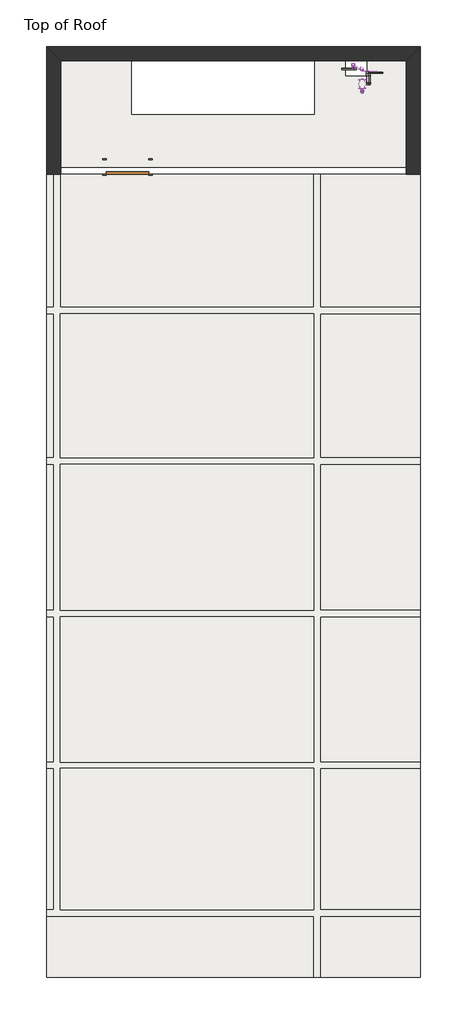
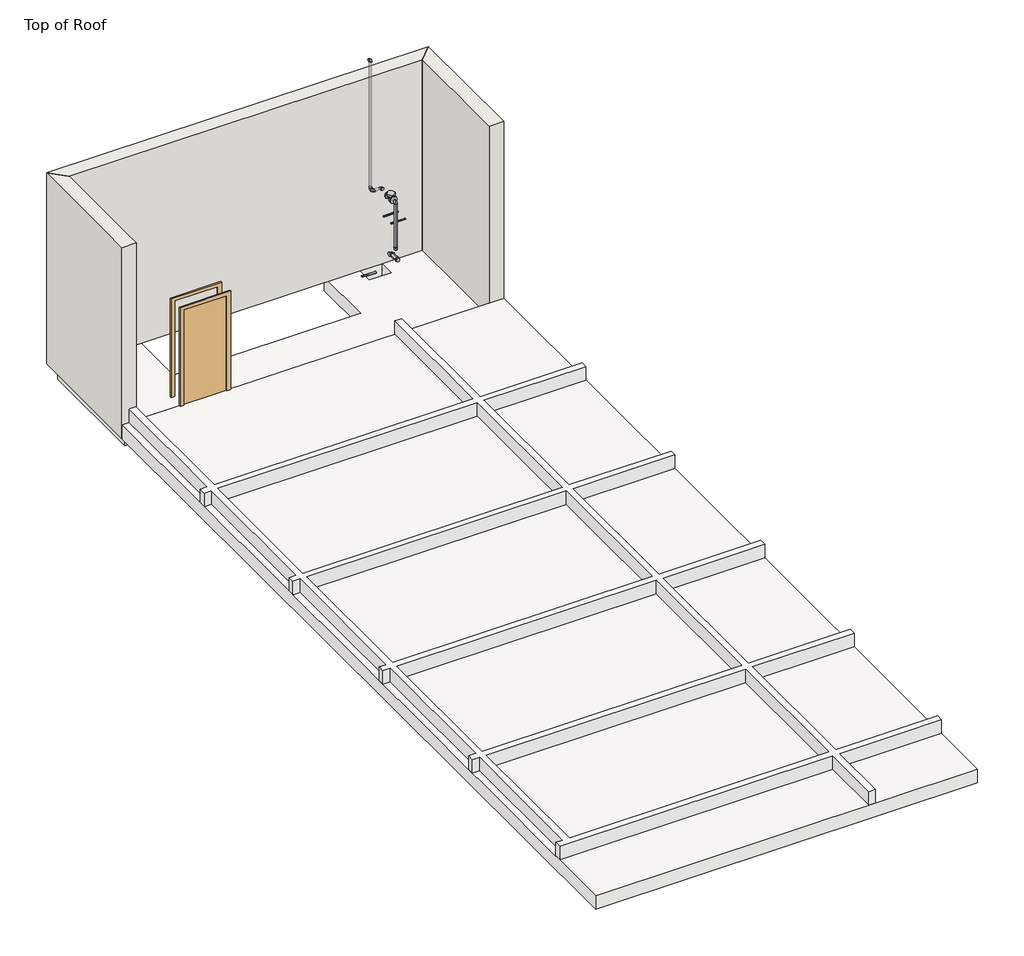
# One storey, incomplete: 10 pipe segments, 8 pipe fittings, 3 duct segments, 3 walls, 2 roofs, 1 door, 1 slab, 1 valve.
"""IFC4 building model written with IfcOpenShell, lengths in millimetres."""

from ifc_helpers import new_model, si_unit, point, frame, frame_2d, origin, place, context, project, spatial, polyline, circle_curve, trimmed, segment, composite_curve, outline, extrude, faceted_brep, transform, mapped, element, save
from components import door_03272193, pipe_elbow1_standard_2_37b9a8da, pipe_elbow_standard_764eecca, pipe_straight_coupling_standard_b5fcd073, pipe_straight_coupling_standard_a036b704, valve_ac2393f4

model = new_model("IFC4")

# Units and contexts
model_context = context("Model", 3, world=origin())
ifc_project = project(units=[si_unit("LENGTHUNIT", "METRE", prefix="MILLI")], contexts=[model_context])

# Site, building, storey
site = spatial("IfcSite", under=ifc_project)
building = spatial("IfcBuilding", under=site)
storey = spatial("IfcBuildingStorey", under=building, Name="Top of Roof", Elevation=11582.4)

# Door
placement = place(None, origin())
door_shape = door_03272193(model_context)
element("IfcDoor", 1, ObjectType="Single-Flush : 36\" x 84\"", at=placement, inside=storey, context=model_context, shape_type="MappedRepresentation", body=[
    mapped(door_shape, transform((-3019.2439612, 9304.759643, 11887.2), x_axis=(-1.0, 0.0, 0.0), y_axis=(0.0, -1.0, 0.0), z_axis=(0.0, 0.0, 1.0))),
])

# Duct segments
element("IfcDuctSegment", 2, ObjectType="Standard", at=placement, inside=storey, context=model_context, shape_type="SweptSolid", body=[
    extrude(outline(composite_curve([segment(trimmed(circle_curve(frame_2d((11425.659643, 11582.4)), 19.05), [point((11444.709643, 11582.4))], [point((11425.659643, 11563.35))], False, "CARTESIAN"), True, "CONTINUOUS"), segment(trimmed(circle_curve(frame_2d((11425.659643, 11582.4)), 19.05), [point((11425.659643, 11563.35))], [point((11406.609643, 11582.4))], False, "CARTESIAN"), True, "CONTINUOUS"), segment(trimmed(circle_curve(frame_2d((11425.659643, 11582.4)), 19.05), [point((11406.609643, 11582.4))], [point((11425.659643, 11601.45))], False, "CARTESIAN"), True, "CONTINUOUS"), segment(trimmed(circle_curve(frame_2d((11425.659643, 11582.4)), 19.05), [point((11425.659643, 11601.45))], [point((11444.709643, 11582.4))], False, "CARTESIAN"), True, "CONTINUOUS")], self_intersect=False)), frame((1611.6863305, 0.0, 0.0), z_axis=(1.0, 0.0, 0.0), x_axis=(0.0, 1.0, 0.0)), (0.0, 0.0, 1.0), 304.8),
])
element("IfcDuctSegment", 3, ObjectType="Standard", at=placement, inside=storey, context=model_context, shape_type="SweptSolid", body=[
    extrude(outline(composite_curve([segment(trimmed(circle_curve(frame_2d((11372.829964, 12815.3598542)), 12.7), [point((11360.129964, 12815.3598542))], [point((11372.829964, 12828.0598542))], False, "CARTESIAN"), True, "CONTINUOUS"), segment(trimmed(circle_curve(frame_2d((11372.829964, 12815.3598542)), 12.7), [point((11372.829964, 12828.0598542))], [point((11385.529964, 12815.3598542))], False, "CARTESIAN"), True, "CONTINUOUS"), segment(trimmed(circle_curve(frame_2d((11372.829964, 12815.3598542)), 12.7), [point((11385.529964, 12815.3598542))], [point((11372.829964, 12802.6598542))], False, "CARTESIAN"), True, "CONTINUOUS"), segment(trimmed(circle_curve(frame_2d((11372.829964, 12815.3598542)), 12.7), [point((11372.829964, 12802.6598542))], [point((11360.129964, 12815.3598542))], False, "CARTESIAN"), True, "CONTINUOUS")], self_intersect=False)), frame((2048.0560388, 0.0, 0.0), z_axis=(1.0, 0.0, 0.0), x_axis=(0.0, 1.0, 0.0)), (0.0, 0.0, 1.0), 304.8),
])
element("IfcDuctSegment", 4, ObjectType="Standard", at=placement, inside=storey, context=model_context, shape_type="SweptSolid", body=[
    extrude(outline(composite_curve([segment(trimmed(circle_curve(frame_2d((11339.4791702, 12629.0737176)), 12.7), [point((11352.1791702, 12629.0737176))], [point((11339.4791702, 12616.3737176))], False, "CARTESIAN"), True, "CONTINUOUS"), segment(trimmed(circle_curve(frame_2d((11339.4791702, 12629.0737176)), 12.7), [point((11339.4791702, 12616.3737176))], [point((11326.7791702, 12629.0737176))], False, "CARTESIAN"), True, "CONTINUOUS"), segment(trimmed(circle_curve(frame_2d((11339.4791702, 12629.0737176)), 12.7), [point((11326.7791702, 12629.0737176))], [point((11339.4791702, 12641.7737176))], False, "CARTESIAN"), True, "CONTINUOUS"), segment(trimmed(circle_curve(frame_2d((11339.4791702, 12629.0737176)), 12.7), [point((11339.4791702, 12641.7737176))], [point((11352.1791702, 12629.0737176))], False, "CARTESIAN"), True, "CONTINUOUS")], self_intersect=False)), frame((2187.7560388, 0.0, 0.0), z_axis=(1.0, 0.0, 0.0), x_axis=(0.0, 1.0, 0.0)), (0.0, 0.0, 1.0), 304.8),
])

# Pipe fittings
pipe_elbow1_standard_2_shape = pipe_elbow1_standard_2_37b9a8da(model_context)
element("IfcPipeFitting", 5, ObjectType="Pipe Elbow1 : Standard 2", at=placement, inside=storey, context=model_context, shape_type="MappedRepresentation", body=[
    mapped(pipe_elbow1_standard_2_shape, transform((2187.7560388, 11330.409643, 11963.4), x_axis=(0.0, 1.0, 0.0), y_axis=(-1.0, 0.0, 0.0), z_axis=(0.0, 0.0, 1.0))),
])
pipe_elbow_standard_shape = pipe_elbow_standard_764eecca(model_context)
element("IfcPipeFitting", 6, ObjectType="Pipe Elbow1 : Standard 2", at=placement, inside=storey, context=model_context, shape_type="MappedRepresentation", body=[
    mapped(pipe_elbow_standard_shape, transform((1858.0140973, 11439.1535444, 13411.2), x_axis=(-1.0, 0.0, 0.0), y_axis=(0.0, 1.0, 0.0), z_axis=(0.0, 0.0, -1.0))),
])
element("IfcPipeFitting", 7, ObjectType="Pipe Elbow1 : Standard 2", at=placement, inside=storey, context=model_context, shape_type="MappedRepresentation", body=[
    mapped(pipe_elbow_standard_shape, transform((1858.0140973, 11521.5729631, 13411.2), x_axis=(0.0, 1.0, 0.0), y_axis=(0.0, 0.0, 1.0), z_axis=(1.0, 0.0, 0.0))),
])
element("IfcPipeFitting", 8, ObjectType="Pipe Elbow1 : Standard 2", at=placement, inside=storey, context=model_context, shape_type="MappedRepresentation", body=[
    mapped(pipe_elbow_standard_shape, transform((2048.0560388, 11439.1535444, 13411.2), x_axis=(1.0, 0.0, 0.0), y_axis=(0.0, -1.0, 0.0), z_axis=(0.0, 0.0, -1.0))),
])
element("IfcPipeFitting", 9, ObjectType="Pipe Elbow1 : Standard 2", at=placement, inside=storey, context=model_context, shape_type="MappedRepresentation", body=[
    mapped(pipe_elbow_standard_shape, transform((2048.0560388, 10930.359643, 13411.2), x_axis=(0.0, 0.0, 1.0), y_axis=(0.0, 1.0, 0.0), z_axis=(-1.0, 0.0, 0.0))),
])
element("IfcPipeFitting", 10, ObjectType="Pipe Elbow1 : Standard 2", at=placement, inside=storey, context=model_context, shape_type="MappedRepresentation", body=[
    mapped(pipe_elbow_standard_shape, transform((1858.0140973, 11521.5729631, 16297.275), x_axis=(0.0, 0.0, 1.0), y_axis=(-1.0, 0.0, 0.0), z_axis=(0.0, -1.0, 0.0))),
])
pipe_straight_coupling_standard_shape = pipe_straight_coupling_standard_b5fcd073(model_context)
element("IfcPipeFitting", 11, ObjectType="Pipe Straight Coupling : Standard", at=placement, inside=storey, context=model_context, shape_type="MappedRepresentation", body=[
    mapped(pipe_straight_coupling_standard_shape, transform((2187.7560388, 11122.2413836, 11963.4), x_axis=(0.0, -1.0, 0.0), y_axis=(1.0, 0.0, 0.0), z_axis=(0.0, 0.0, 1.0))),
])
pipe_straight_coupling_standard_2_shape = pipe_straight_coupling_standard_a036b704(model_context)
element("IfcPipeFitting", 12, ObjectType="Pipe Straight Coupling : Standard", at=placement, inside=storey, context=model_context, shape_type="MappedRepresentation", body=[
    mapped(pipe_straight_coupling_standard_2_shape, transform((2048.0560388, 10930.359643, 12398.3856276), x_axis=(0.0, 0.0, -1.0), y_axis=(-1.0, 0.0, 0.0), z_axis=(0.0, 1.0, 0.0))),
])

# Pipe segments
element("IfcPipeSegment", 13, ObjectType="Standard", at=placement, inside=storey, context=model_context, shape_type="SweptSolid", body=[
    extrude(outline(composite_curve([segment(trimmed(circle_curve(frame_2d((0.0, 39.6875)), 39.6875), [point((0.0, 79.375))], [point((39.6875, 39.6875))], False, "CARTESIAN"), True, "CONTINUOUS"), segment(trimmed(circle_curve(frame_2d((0.0, 39.6875)), 39.6875), [point((39.6875, 39.6875))], [point((0.0, 0.0))], False, "CARTESIAN"), True, "CONTINUOUS"), segment(trimmed(circle_curve(frame_2d((0.0, 39.6875)), 39.6875), [point((0.0, 0.0))], [point((-39.6875, 39.6875))], False, "CARTESIAN"), True, "CONTINUOUS"), segment(trimmed(circle_curve(frame_2d((0.0, 39.6875)), 39.6875), [point((-39.6875, 39.6875))], [point((0.0, 79.375))], False, "CARTESIAN"), True, "CONTINUOUS")], self_intersect=False)), frame((2148.0685388, 11124.6543836, 11963.4), z_axis=(2.9194779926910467e-12, 1.0, 0.0), x_axis=(0.0, 0.0, 1.0)), (0.0, 0.0, 1.0), 156.5427594),
])
element("IfcPipeSegment", 14, ObjectType="Standard", at=placement, inside=storey, context=model_context, shape_type="SweptSolid", body=[
    extrude(outline(composite_curve([segment(trimmed(circle_curve(frame_2d((2048.0560388, 10930.359643)), 26.9875), [point((2021.0685388, 10930.359643))], [point((2048.0560388, 10957.347143))], False, "CARTESIAN"), True, "CONTINUOUS"), segment(trimmed(circle_curve(frame_2d((2048.0560388, 10930.359643)), 26.9875), [point((2048.0560388, 10957.347143))], [point((2075.0435388, 10930.359643))], False, "CARTESIAN"), True, "CONTINUOUS"), segment(trimmed(circle_curve(frame_2d((2048.0560388, 10930.359643)), 26.9875), [point((2075.0435388, 10930.359643))], [point((2048.0560388, 10903.372143))], False, "CARTESIAN"), True, "CONTINUOUS"), segment(trimmed(circle_curve(frame_2d((2048.0560388, 10930.359643)), 26.9875), [point((2048.0560388, 10903.372143))], [point((2021.0685388, 10930.359643))], False, "CARTESIAN"), True, "CONTINUOUS")], self_intersect=False)), frame((0.0, 0.0, 12400.7986276), z_axis=(0.0, 0.0, 1.0), x_axis=(1.0, 0.0, 0.0)), (0.0, 0.0, 1.0), 973.8888724),
])
element("IfcPipeSegment", 15, ObjectType="Standard", at=placement, inside=storey, context=model_context, shape_type="SweptSolid", body=[
    extrude(outline(composite_curve([segment(trimmed(circle_curve(frame_2d((13411.2, 2048.0560388)), 26.9875), [point((13411.2, 2021.0685388))], [point((13384.2125, 2048.0560388))], False, "CARTESIAN"), True, "CONTINUOUS"), segment(trimmed(circle_curve(frame_2d((13411.2, 2048.0560388)), 26.9875), [point((13384.2125, 2048.0560388))], [point((13411.2, 2075.0435388))], False, "CARTESIAN"), True, "CONTINUOUS"), segment(trimmed(circle_curve(frame_2d((13411.2, 2048.0560388)), 26.9875), [point((13411.2, 2075.0435388))], [point((13438.1875, 2048.0560388))], False, "CARTESIAN"), True, "CONTINUOUS"), segment(trimmed(circle_curve(frame_2d((13411.2, 2048.0560388)), 26.9875), [point((13438.1875, 2048.0560388))], [point((13411.2, 2021.0685388))], False, "CARTESIAN"), True, "CONTINUOUS")], self_intersect=False)), frame((0.0, 11389.6594192, 0.0), z_axis=(0.0, 1.0, 0.0), x_axis=(0.0, 0.0, 1.0)), (0.0, 0.0, 1.0), 12.9816252),
])
element("IfcPipeSegment", 16, ObjectType="Standard", at=placement, inside=storey, context=model_context, shape_type="SweptSolid", body=[
    extrude(outline(composite_curve([segment(trimmed(circle_curve(frame_2d((11439.1535444, 13411.2)), 26.9875), [point((11466.1410444, 13411.2))], [point((11439.1535444, 13384.2125))], False, "CARTESIAN"), True, "CONTINUOUS"), segment(trimmed(circle_curve(frame_2d((11439.1535444, 13411.2)), 26.9875), [point((11439.1535444, 13384.2125))], [point((11412.1660444, 13411.2))], False, "CARTESIAN"), True, "CONTINUOUS"), segment(trimmed(circle_curve(frame_2d((11439.1535444, 13411.2)), 26.9875), [point((11412.1660444, 13411.2))], [point((11439.1535444, 13438.1875))], False, "CARTESIAN"), True, "CONTINUOUS"), segment(trimmed(circle_curve(frame_2d((11439.1535444, 13411.2)), 26.9875), [point((11439.1535444, 13438.1875))], [point((11466.1410444, 13411.2))], False, "CARTESIAN"), True, "CONTINUOUS")], self_intersect=False)), frame((1894.5265973, 0.0, 0.0), z_axis=(1.0, 0.0, 0.0), x_axis=(0.0, 1.0, 0.0)), (0.0, 0.0, 1.0), 117.0169415),
])
element("IfcPipeSegment", 17, ObjectType="Standard", at=placement, inside=storey, context=model_context, shape_type="SweptSolid", body=[
    extrude(outline(composite_curve([segment(trimmed(circle_curve(frame_2d((0.0, 26.9875)), 26.9875), [point((0.0, 53.975))], [point((26.9875, 26.9875))], False, "CARTESIAN"), True, "CONTINUOUS"), segment(trimmed(circle_curve(frame_2d((0.0, 26.9875)), 26.9875), [point((26.9875, 26.9875))], [point((0.0, 0.0))], False, "CARTESIAN"), True, "CONTINUOUS"), segment(trimmed(circle_curve(frame_2d((0.0, 26.9875)), 26.9875), [point((0.0, 0.0))], [point((-26.9875, 26.9875))], False, "CARTESIAN"), True, "CONTINUOUS"), segment(trimmed(circle_curve(frame_2d((0.0, 26.9875)), 26.9875), [point((-26.9875, 26.9875))], [point((0.0, 53.975))], False, "CARTESIAN"), True, "CONTINUOUS")], self_intersect=False)), frame((1831.0265973, 11475.6660444, 13411.2), z_axis=(2.0864878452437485e-12, 1.0, 0.0), x_axis=(0.0, 0.0, 1.0)), (0.0, 0.0, 1.0), 9.3944187),
])
element("IfcPipeSegment", 18, ObjectType="Standard", at=placement, inside=storey, context=model_context, shape_type="SweptSolid", body=[
    extrude(outline(composite_curve([segment(trimmed(circle_curve(frame_2d((1858.0140973, 11521.5729631)), 26.9875), [point((1885.0015973, 11521.5729631))], [point((1858.0140973, 11494.5854631))], False, "CARTESIAN"), True, "CONTINUOUS"), segment(trimmed(circle_curve(frame_2d((1858.0140973, 11521.5729631)), 26.9875), [point((1858.0140973, 11494.5854631))], [point((1831.0265973, 11521.5729631))], False, "CARTESIAN"), True, "CONTINUOUS"), segment(trimmed(circle_curve(frame_2d((1858.0140973, 11521.5729631)), 26.9875), [point((1831.0265973, 11521.5729631))], [point((1858.0140973, 11548.5604631))], False, "CARTESIAN"), True, "CONTINUOUS"), segment(trimmed(circle_curve(frame_2d((1858.0140973, 11521.5729631)), 26.9875), [point((1858.0140973, 11548.5604631))], [point((1885.0015973, 11521.5729631))], False, "CARTESIAN"), True, "CONTINUOUS")], self_intersect=False)), frame((0.0, 0.0, 13447.7125), z_axis=(0.0, 0.0, 1.0), x_axis=(1.0, 0.0, 0.0)), (0.0, 0.0, 1.0), 2813.05),
])
element("IfcPipeSegment", 19, ObjectType="Standard", at=placement, inside=storey, context=model_context, shape_type="SweptSolid", body=[
    extrude(outline(composite_curve([segment(trimmed(circle_curve(frame_2d((11963.4, 2187.7560388)), 39.6875), [point((11963.4, 2227.4435388))], [point((12003.0875, 2187.7560388))], False, "CARTESIAN"), True, "CONTINUOUS"), segment(trimmed(circle_curve(frame_2d((11963.4, 2187.7560388)), 39.6875), [point((12003.0875, 2187.7560388))], [point((11963.4, 2148.0685388))], False, "CARTESIAN"), True, "CONTINUOUS"), segment(trimmed(circle_curve(frame_2d((11963.4, 2187.7560388)), 39.6875), [point((11963.4, 2148.0685388))], [point((11923.7125, 2187.7560388))], False, "CARTESIAN"), True, "CONTINUOUS"), segment(trimmed(circle_curve(frame_2d((11963.4, 2187.7560388)), 39.6875), [point((11923.7125, 2187.7560388))], [point((11963.4, 2227.4435388))], False, "CARTESIAN"), True, "CONTINUOUS")], self_intersect=False)), frame((0.0, 11082.759643, 0.0), z_axis=(0.0, 1.0, 0.0), x_axis=(0.0, 0.0, 1.0)), (0.0, 0.0, 1.0), 37.0687406),
])
element("IfcPipeSegment", 20, ObjectType="Standard", at=placement, inside=storey, context=model_context, shape_type="SweptSolid", body=[
    extrude(outline(composite_curve([segment(trimmed(circle_curve(frame_2d((2048.0560388, 10930.359643)), 26.9875), [point((2021.0685388, 10930.359643))], [point((2048.0560388, 10957.347143))], False, "CARTESIAN"), True, "CONTINUOUS"), segment(trimmed(circle_curve(frame_2d((2048.0560388, 10930.359643)), 26.9875), [point((2048.0560388, 10957.347143))], [point((2075.0435388, 10930.359643))], False, "CARTESIAN"), True, "CONTINUOUS"), segment(trimmed(circle_curve(frame_2d((2048.0560388, 10930.359643)), 26.9875), [point((2075.0435388, 10930.359643))], [point((2048.0560388, 10903.372143))], False, "CARTESIAN"), True, "CONTINUOUS"), segment(trimmed(circle_curve(frame_2d((2048.0560388, 10930.359643)), 26.9875), [point((2048.0560388, 10903.372143))], [point((2021.0685388, 10930.359643))], False, "CARTESIAN"), True, "CONTINUOUS")], self_intersect=False)), frame((0.0, 0.0, 12344.4), z_axis=(0.0, 0.0, 1.0), x_axis=(1.0, 0.0, 0.0)), (0.0, 0.0, 1.0), 51.5726276),
])
element("IfcPipeSegment", 21, ObjectType="Standard", at=placement, inside=storey, context=model_context, shape_type="SweptSolid", body=[
    extrude(outline(composite_curve([segment(trimmed(circle_curve(frame_2d((13411.2, 2048.0560388)), 26.9875), [point((13411.2, 2075.0435388))], [point((13438.1875, 2048.0560388))], False, "CARTESIAN"), True, "CONTINUOUS"), segment(trimmed(circle_curve(frame_2d((13411.2, 2048.0560388)), 26.9875), [point((13438.1875, 2048.0560388))], [point((13411.2, 2021.0685388))], False, "CARTESIAN"), True, "CONTINUOUS"), segment(trimmed(circle_curve(frame_2d((13411.2, 2048.0560388)), 26.9875), [point((13411.2, 2021.0685388))], [point((13384.2125, 2048.0560388))], False, "CARTESIAN"), True, "CONTINUOUS"), segment(trimmed(circle_curve(frame_2d((13411.2, 2048.0560388)), 26.9875), [point((13384.2125, 2048.0560388))], [point((13411.2, 2075.0435388))], False, "CARTESIAN"), True, "CONTINUOUS")], self_intersect=False)), frame((0.0, 10966.872143, 0.0), z_axis=(0.0, 1.0, 0.0), x_axis=(0.0, 0.0, 1.0)), (0.0, 0.0, 1.0), 29.0872763),
])
element("IfcPipeSegment", 22, ObjectType="Standard", at=placement, inside=storey, context=model_context, shape_type="SweptSolid", body=[
    extrude(outline(composite_curve([segment(trimmed(circle_curve(frame_2d((0.0, -26.9875)), 26.9875), [point((0.0, 0.0))], [point((26.9875, -26.9875))], False, "CARTESIAN"), True, "CONTINUOUS"), segment(trimmed(circle_curve(frame_2d((0.0, -26.9875)), 26.9875), [point((26.9875, -26.9875))], [point((0.0, -53.975))], False, "CARTESIAN"), True, "CONTINUOUS"), segment(trimmed(circle_curve(frame_2d((0.0, -26.9875)), 26.9875), [point((0.0, -53.975))], [point((-26.9875, -26.9875))], False, "CARTESIAN"), True, "CONTINUOUS"), segment(trimmed(circle_curve(frame_2d((0.0, -26.9875)), 26.9875), [point((-26.9875, -26.9875))], [point((0.0, 0.0))], False, "CARTESIAN"), True, "CONTINUOUS")], self_intersect=False)), frame((2021.0685388, 11199.1594192, 13411.2), z_axis=(1.604990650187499e-12, 1.0, 0.0), x_axis=(0.0, 0.0, -1.0)), (0.0, 0.0, 1.0), 12.7),
])

# Roofs
element("IfcRoof", 23, ObjectType="Generic - 12\"", at=placement, inside=storey, context=model_context, shape_type="SweptSolid", body=[
    extrude(outline(polyline([(-4771.8439612, 9152.359643), (3305.3560388, 9152.359643), (3305.3560388, -8208.540357), (-4771.8439612, -8208.540357), (-4771.8439612, 9152.359643)])), frame((0.0, 0.0, 11582.4), z_axis=(0.0, 0.0, 1.0), x_axis=(1.0, 0.0, 0.0)), (0.0, 0.0, 1.0), 304.8),
])
element("IfcRoof", 24, ObjectType="Generic - 12\"", at=placement, inside=storey, context=model_context, shape_type="SweptSolid", body=[
    extrude(outline(polyline([(-4619.4439612, -276.541531), (-4619.4439612, 2879.4310017), (-4771.8439612, 2879.4310017), (-4771.8439612, 3019.1310017), (-4619.4439612, 3019.1310017), (-4619.4439612, 6136.9810017), (-4771.8439612, 6136.9810017), (-4771.8439612, 6276.6810017), (-4619.4439612, 6276.6810017), (-4619.4439612, 9152.359643), (-4479.7439612, 9152.359643), (-4479.7439612, 6276.6810017), (1006.6560388, 6276.6810017), (1006.6560388, 9152.359643), (1146.3560388, 9152.359643), (1146.3560388, 6276.6810017), (3305.3560388, 6276.6810017), (3305.3560388, 6136.9810017), (1146.3560388, 6136.9810017), (1146.3560388, 3019.1310017), (3305.3560388, 3019.1310017), (3305.3560388, 2879.4310017), (1146.3560388, 2879.4310017), (1146.3560388, -276.541531), (3305.3560388, -276.541531), (3305.3560388, -416.241531), (1146.3560388, -416.241531), (1146.3560388, -3553.1189983), (3305.3560388, -3553.1189983), (3305.3560388, -3692.8189983), (1146.3560388, -3692.8189983), (1146.3560388, -6748.040357), (3305.3560388, -6748.040357), (3305.3560388, -6887.740357), (1146.3560388, -6887.740357), (1146.3560388, -8208.540357), (1006.6560388, -8208.540357), (1006.6560388, -6887.740357), (-4771.8439612, -6887.740357), (-4771.8439612, -6748.040357), (-4619.4439612, -6748.040357), (-4619.4439612, -3692.8189983), (-4771.8439612, -3692.8189983), (-4771.8439612, -3553.1189983), (-4619.4439612, -3553.1189983), (-4619.4439612, -416.241531), (-4771.8439612, -416.241531), (-4771.8439612, -276.541531), (-4619.4439612, -276.541531)]), holes=[polyline([(1006.6560388, 6136.9810017), (-4479.7439612, 6136.9810017), (-4479.7439612, 3019.1310017), (1006.6560388, 3019.1310017), (1006.6560388, 6136.9810017)]), polyline([(1006.6560388, 2879.4310017), (-4479.7439612, 2879.4310017), (-4479.7439612, -276.541531), (1006.6560388, -276.541531), (1006.6560388, 2879.4310017)]), polyline([(1006.6560388, -416.241531), (-4479.7439612, -416.241531), (-4479.7439612, -3553.1189983), (1006.6560388, -3553.1189983), (1006.6560388, -416.241531)]), polyline([(1006.6560388, -3692.8189983), (-4479.7439612, -3692.8189983), (-4479.7439612, -6748.040357), (1006.6560388, -6748.040357), (1006.6560388, -3692.8189983)])]), frame((0.0, 0.0, 11887.2), z_axis=(0.0, 0.0, 1.0), x_axis=(1.0, 0.0, 0.0)), (0.0, 0.0, 1.0), 304.8),
])

# Slab
element("IfcSlab", 25, ObjectType="Generic - 12\"", at=placement, inside=storey, context=model_context, shape_type="Brep", body=[
    faceted_brep([(-4619.4439612, 11755.859643, 11277.6), (-2943.0439612, 11755.859643, 11277.6), (-2943.0439612, 10435.059643, 11277.6), (1019.3560388, 10435.059643, 11277.6), (1019.3560388, 11755.859643, 11277.6), (3152.9560388, 11755.859643, 11277.6), (3152.9560388, 9304.759643, 11277.6), (3000.5560388, 9304.759643, 11277.6), (-4467.0439612, 9304.759643, 11277.6), (-4619.4439612, 9304.759643, 11277.6), (2148.6329648, 11603.459643, 11277.6), (1691.4329648, 11603.459643, 11277.6), (1691.4329648, 11273.259643, 11277.6), (2148.6329648, 11273.259643, 11277.6), (-4619.4439612, 11755.859643, 11582.4), (-4619.4439612, 9304.759643, 11582.4), (-4467.0439612, 9304.759643, 11582.4), (3000.5560388, 9304.759643, 11582.4), (3152.9560388, 9304.759643, 11582.4), (3152.9560388, 11755.859643, 11582.4), (1019.3560388, 11755.859643, 11582.4), (1019.3560388, 10435.059643, 11582.4), (-2943.0439612, 10435.059643, 11582.4), (-2943.0439612, 11755.859643, 11582.4), (2148.6329648, 11603.459643, 11582.4), (2148.6329648, 11273.259643, 11582.4), (1691.4329648, 11273.259643, 11582.4), (1691.4329648, 11603.459643, 11582.4)], [[[0, 1, 2, 3, 4, 5, 6, 7, 8, 9], [10, 11, 12, 13]], [[14, 15, 16, 17, 18, 19, 20, 21, 22, 23], [24, 25, 26, 27]], [[1, 0, 14, 23]], [[2, 1, 23, 22]], [[3, 2, 22, 21]], [[4, 3, 21, 20]], [[5, 4, 20, 19]], [[6, 5, 19, 18]], [[9, 8, 7, 6, 18, 17, 16, 15]], [[0, 9, 15, 14]], [[11, 10, 24, 27]], [[12, 11, 27, 26]], [[13, 12, 26, 25]], [[10, 13, 25, 24]]]),
])

# Valve
valve_shape = valve_ac2393f4(model_context)
element("IfcValve", 26, ObjectType="Check Valve_2-12 Inch_Flanged : 2\"", at=placement, inside=storey, context=model_context, shape_type="MappedRepresentation", body=[
    mapped(valve_shape, transform((2048.0560388, 11097.5594192, 13411.2), x_axis=(0.0, 1.0, 0.0), y_axis=(-1.0, 0.0, 0.0), z_axis=(0.0, 0.0, 1.0))),
])

# Walls
element("IfcWall", 27, ObjectType="Cast Concrete Wall 12\"", at=placement, inside=storey, context=model_context, shape_type="Brep", body=[
    faceted_brep([(-4467.0439612, 11603.459643, 11582.4), (-4467.0439612, 9457.159643, 11582.4), (-4467.0439612, 9304.759643, 11582.4), (-4467.0439612, 9152.359643, 11582.4), (-4771.8439612, 9152.359643, 11582.4), (-4771.8439612, 11908.259643, 11582.4), (-4467.0439612, 9152.359643, 15849.6), (-4467.0439612, 9457.159643, 15849.6), (-4467.0439612, 11603.459643, 15849.6), (-4771.8439612, 11908.259643, 15849.6), (-4771.8439612, 9152.359643, 15849.6)], [[[0, 1, 2, 3, 4, 5]], [[6, 7, 8, 9, 10]], [[3, 2, 1, 0, 8, 7, 6]], [[4, 10, 9, 5]], [[8, 0, 5, 9]], [[3, 6, 10, 4]]]),
])
element("IfcWall", 28, ObjectType="Cast Concrete Wall 12\"", at=placement, inside=storey, context=model_context, shape_type="Brep", body=[
    faceted_brep([(3000.5560388, 11603.459643, 11582.4), (2148.6329648, 11603.459643, 11582.4), (1691.4329648, 11603.459643, 11582.4), (154.3430017, 11603.459643, 11582.4), (-3808.0569983, 11603.459643, 11582.4), (-4467.0439612, 11603.459643, 11582.4), (-4771.8439612, 11908.259643, 11582.4), (-3808.0569983, 11908.259643, 11582.4), (154.3430017, 11908.259643, 11582.4), (3305.3560388, 11908.259643, 11582.4), (-4467.0439612, 11603.459643, 15849.6), (3000.5560388, 11603.459643, 15849.6), (3305.3560388, 11908.259643, 15849.6), (-4771.8439612, 11908.259643, 15849.6)], [[[0, 1, 2, 3, 4, 5, 6, 7, 8, 9]], [[10, 11, 12, 13]], [[5, 4, 3, 2, 1, 0, 11, 10]], [[6, 13, 12, 9, 8, 7]], [[5, 10, 13, 6]], [[11, 0, 9, 12]]]),
])
element("IfcWall", 29, ObjectType="Cast Concrete Wall 12\"", at=placement, inside=storey, context=model_context, shape_type="Brep", body=[
    faceted_brep([(3000.5560388, 9152.359643, 11582.4), (3000.5560388, 9304.759643, 11582.4), (3000.5560388, 9457.159643, 11582.4), (3000.5560388, 11603.459643, 11582.4), (3305.3560388, 11908.259643, 11582.4), (3305.3560388, 9152.359643, 11582.4), (3000.5560388, 11603.459643, 15849.6), (3000.5560388, 9457.159643, 15849.6), (3000.5560388, 9152.359643, 15849.6), (3305.3560388, 9152.359643, 15849.6), (3305.3560388, 11908.259643, 15849.6)], [[[0, 1, 2, 3, 4, 5]], [[6, 7, 8, 9, 10]], [[3, 2, 1, 0, 8, 7, 6]], [[4, 10, 9, 5]], [[3, 6, 10, 4]], [[8, 0, 5, 9]]]),
])

save(model, "model.ifc")
